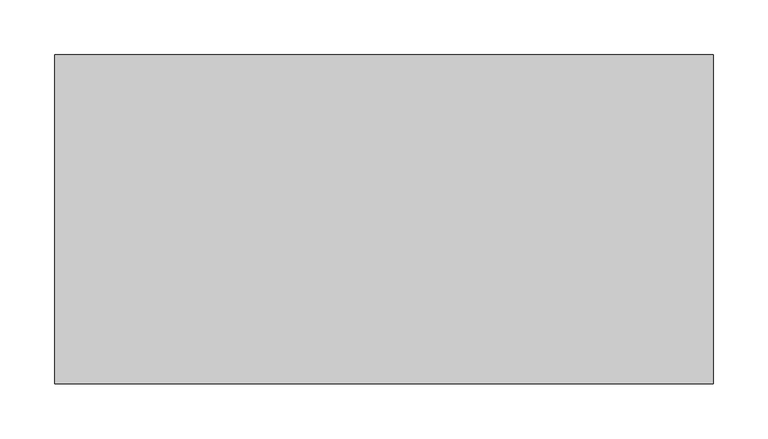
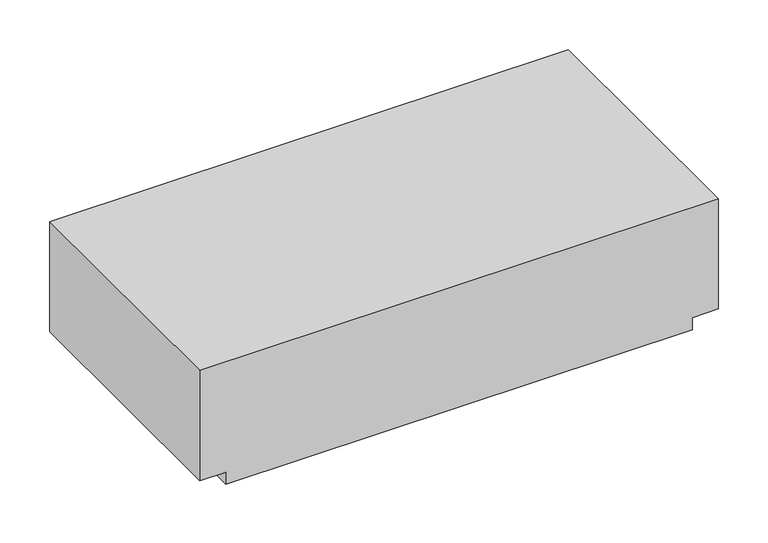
"""IFC4 building model written with IfcOpenShell, lengths in millimetres: proxy geometry, Módulo Laje de Concreto Celular com Friso - Celucon : MLCC friso 15x30x60cm (A x B x C)."""

from ifc_helpers import new_model, si_unit, frame, origin, place, context, project, spatial, polyline, outline, extrude, source, transform, mapped, element, save


def generic_models_17415f59(model_context):
    return source(origin(), model_context, "Body", "SweptSolid", [
        extrude(outline(polyline([(150.0, 300.0), (150.0, -300.0), (15.0, -300.0), (15.0, -270.0), (0.0, -270.0), (0.0, 270.0), (15.0, 270.0), (15.0, 300.0), (150.0, 300.0)])), frame((0.0, -150.0, 0.0), z_axis=(0.0, 1.0, 0.0), x_axis=(0.0, 0.0, 1.0)), (0.0, 0.0, 1.0), 300.0),
    ])


if __name__ == "__main__":
    model = new_model("IFC4")
    model_context = context("Model", 3, world=origin())
    ifc_project = project(units=[si_unit("LENGTHUNIT", "METRE", prefix="MILLI")], contexts=[model_context])
    site = spatial("IfcSite", under=ifc_project)
    building = spatial("IfcBuilding", under=site)
    placement = place(None, origin())
    generic_models_shape = generic_models_17415f59(model_context)
    element("IfcBuildingElementProxy", 1, Name="Módulo Laje de Concreto Celular com Friso - Celucon : MLCC friso 15x30x60cm (A x B x C)", ObjectType="Módulo Laje de Concreto Celular com Friso - Celucon : MLCC friso 15x30x60cm (A x B x C)", at=placement, inside=building, context=model_context, shape_type="MappedRepresentation", body=[
        mapped(generic_models_shape, transform((0.0, 0.0, 0.0), x_axis=(1.0, 0.0, 0.0), y_axis=(0.0, 1.0, 0.0), z_axis=(0.0, 0.0, 1.0))),
    ])
    save(model, "model.ifc")
